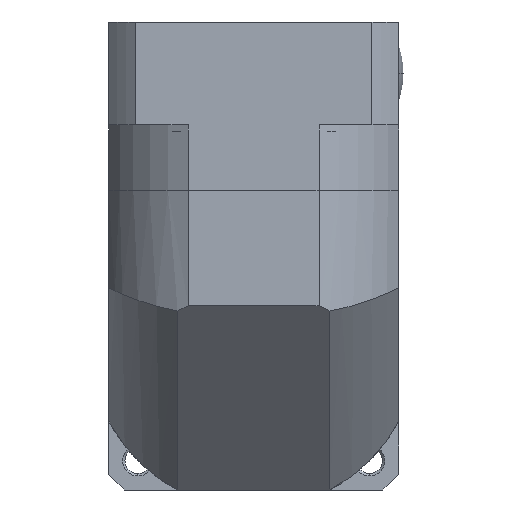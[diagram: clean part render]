
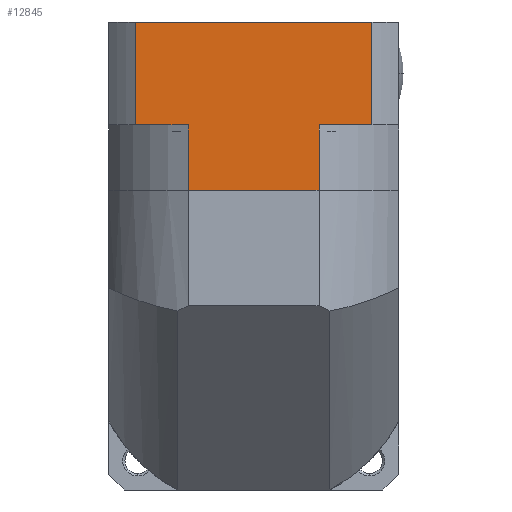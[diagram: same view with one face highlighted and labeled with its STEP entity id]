
A CAD part, front view. The second image highlights one B-rep face of the part: STEP entity #12845.
In plain terms, the highlighted planar face has unit normal (0, -1, 0).
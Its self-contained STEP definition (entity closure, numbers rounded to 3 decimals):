
#947 = EDGE_CURVE ( 'NONE', #5030, #4060, #12371, .T. ) ;
#1006 = EDGE_CURVE ( 'NONE', #5030, #11464, #4400, .T. ) ;
#1046 = CARTESIAN_POINT ( 'NONE',  ( -5.051, -30.594, 58.993 ) ) ;
#1117 = LINE ( 'NONE', #4122, #6022 ) ;
#1330 = CARTESIAN_POINT ( 'NONE',  ( -5.051, -30.594, 44.993 ) ) ;
#1390 = VECTOR ( 'NONE', #8268, 1000. ) ;
#2023 = LINE ( 'NONE', #11956, #1390 ) ;
#2317 = ORIENTED_EDGE ( 'NONE', *, *, #2770, .T. ) ;
#2689 = VERTEX_POINT ( 'NONE', #8146 ) ;
#2770 = EDGE_CURVE ( 'NONE', #2689, #11967, #5477, .T. ) ;
#2952 = DIRECTION ( 'NONE',  ( 1., 0., 0. ) ) ;
#3002 = DIRECTION ( 'NONE',  ( 0., 1., 0. ) ) ;
#3040 = VECTOR ( 'NONE', #12142, 1000. ) ;
#3325 = CARTESIAN_POINT ( 'NONE',  ( -16.365, -30.594, 58.993 ) ) ;
#3553 = VECTOR ( 'NONE', #10774, 1000. ) ;
#3916 = DIRECTION ( 'NONE',  ( 0., 0., -1. ) ) ;
#3977 = LINE ( 'NONE', #4836, #6637 ) ;
#3983 = ORIENTED_EDGE ( 'NONE', *, *, #5236, .T. ) ;
#4060 = VERTEX_POINT ( 'NONE', #10577 ) ;
#4110 = DIRECTION ( 'NONE',  ( 0., 0., 1. ) ) ;
#4122 = CARTESIAN_POINT ( 'NONE',  ( -5.051, -30.594, 44.993 ) ) ;
#4309 = PLANE ( 'NONE',  #11228 ) ;
#4400 = LINE ( 'NONE', #6223, #10301 ) ;
#4463 = DIRECTION ( 'NONE',  ( 0., 0., -1. ) ) ;
#4479 = VECTOR ( 'NONE', #4463, 1000. ) ;
#4662 = VERTEX_POINT ( 'NONE', #1330 ) ;
#4836 = CARTESIAN_POINT ( 'NONE',  ( -16.365, -30.594, 80.993 ) ) ;
#5030 = VERTEX_POINT ( 'NONE', #6137 ) ;
#5236 = EDGE_CURVE ( 'NONE', #7094, #2689, #3977, .T. ) ;
#5248 = ORIENTED_EDGE ( 'NONE', *, *, #10968, .F. ) ;
#5252 = CARTESIAN_POINT ( 'NONE',  ( 22.878, -30.594, 58.993 ) ) ;
#5469 = CARTESIAN_POINT ( 'NONE',  ( -16.365, -30.594, 80.993 ) ) ;
#5477 = LINE ( 'NONE', #3325, #3040 ) ;
#5771 = VERTEX_POINT ( 'NONE', #8664 ) ;
#5939 = DIRECTION ( 'NONE',  ( 0., 0., -1. ) ) ;
#6022 = VECTOR ( 'NONE', #2952, 1000. ) ;
#6031 = ORIENTED_EDGE ( 'NONE', *, *, #7398, .F. ) ;
#6074 = EDGE_CURVE ( 'NONE', #4662, #4060, #1117, .T. ) ;
#6137 = CARTESIAN_POINT ( 'NONE',  ( 22.878, -30.594, 58.993 ) ) ;
#6146 = EDGE_LOOP ( 'NONE', ( #10921, #12482, #12213, #6031, #5248, #3983, #2317, #10831 ) ) ;
#6223 = CARTESIAN_POINT ( 'NONE',  ( -16.365, -30.594, 58.993 ) ) ;
#6637 = VECTOR ( 'NONE', #3916, 1000. ) ;
#7094 = VERTEX_POINT ( 'NONE', #5469 ) ;
#7398 = EDGE_CURVE ( 'NONE', #5771, #11464, #12616, .T. ) ;
#7454 = EDGE_CURVE ( 'NONE', #11967, #4662, #8083, .T. ) ;
#7641 = CARTESIAN_POINT ( 'NONE',  ( 34.192, -30.594, 80.993 ) ) ;
#7929 = VECTOR ( 'NONE', #5939, 1000. ) ;
#8083 = LINE ( 'NONE', #10103, #7929 ) ;
#8146 = CARTESIAN_POINT ( 'NONE',  ( -16.365, -30.594, 58.993 ) ) ;
#8268 = DIRECTION ( 'NONE',  ( 1., 0., 0. ) ) ;
#8664 = CARTESIAN_POINT ( 'NONE',  ( 34.192, -30.594, 80.993 ) ) ;
#10103 = CARTESIAN_POINT ( 'NONE',  ( -5.051, -30.594, 58.993 ) ) ;
#10204 = DIRECTION ( 'NONE',  ( 1., 0., 0. ) ) ;
#10301 = VECTOR ( 'NONE', #10204, 1000. ) ;
#10536 = CARTESIAN_POINT ( 'NONE',  ( 34.192, -30.594, 58.993 ) ) ;
#10577 = CARTESIAN_POINT ( 'NONE',  ( 22.878, -30.594, 44.993 ) ) ;
#10774 = DIRECTION ( 'NONE',  ( 0., 0., -1. ) ) ;
#10831 = ORIENTED_EDGE ( 'NONE', *, *, #7454, .T. ) ;
#10921 = ORIENTED_EDGE ( 'NONE', *, *, #6074, .T. ) ;
#10965 = FACE_OUTER_BOUND ( 'NONE', #6146, .T. ) ;
#10968 = EDGE_CURVE ( 'NONE', #7094, #5771, #2023, .T. ) ;
#11228 = AXIS2_PLACEMENT_3D ( 'NONE', #1046, #3002, #4110 ) ;
#11464 = VERTEX_POINT ( 'NONE', #10536 ) ;
#11765 = CARTESIAN_POINT ( 'NONE',  ( -5.051, -30.594, 58.993 ) ) ;
#11956 = CARTESIAN_POINT ( 'NONE',  ( -16.365, -30.594, 80.993 ) ) ;
#11967 = VERTEX_POINT ( 'NONE', #11765 ) ;
#12142 = DIRECTION ( 'NONE',  ( 1., 0., 0. ) ) ;
#12213 = ORIENTED_EDGE ( 'NONE', *, *, #1006, .T. ) ;
#12371 = LINE ( 'NONE', #5252, #4479 ) ;
#12482 = ORIENTED_EDGE ( 'NONE', *, *, #947, .F. ) ;
#12616 = LINE ( 'NONE', #7641, #3553 ) ;
#12845 = ADVANCED_FACE ( 'NONE', ( #10965 ), #4309, .F. ) ;
